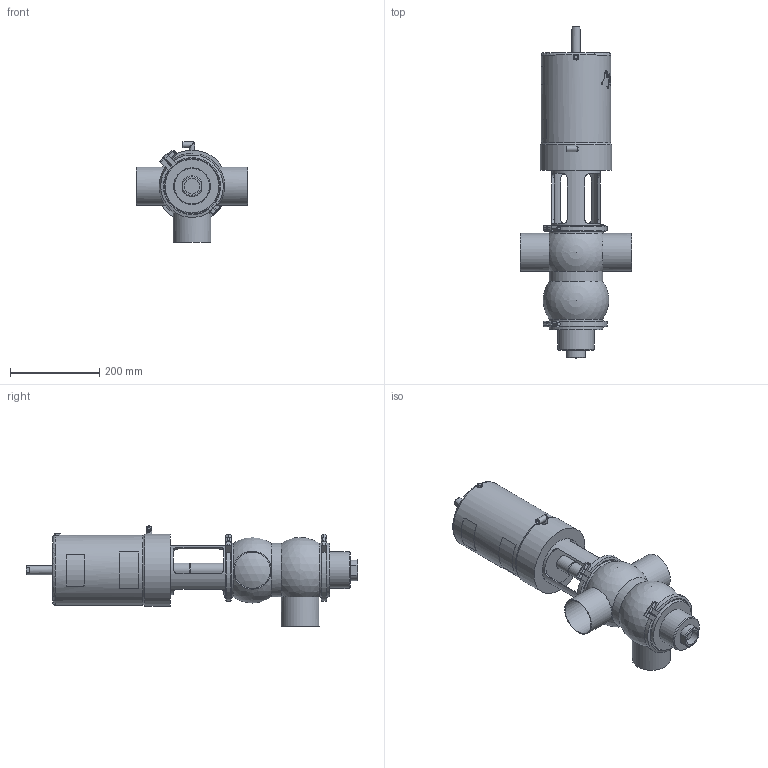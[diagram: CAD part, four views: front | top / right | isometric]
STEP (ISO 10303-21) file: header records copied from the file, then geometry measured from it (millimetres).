
FILE_DESCRIPTION (( 'STEP AP214' ), '1' );
FILE_NAME ('INNOVA S AB-90 W DIN 080_10.251.16.0001.STEP', '2024-08-20T12:10:05', ( '' ), ( '' ), 'SwSTEP 2.0', 'SolidWorks 2023', '' );
FILE_SCHEMA (( 'AUTOMOTIVE_DESIGN' ));
Length unit declared in the file: millimetre
Products named in the file (6): INNOVA S AB-90 W DIN 080_10.251.16.0001; 10.251.15.0003_DIN 080; 10.250.15.0002_Type S T2; 10.240.15.0001_DN 080; 10.251.15.0002_DN 080; 10.251.15.0001_DN 080
Assembly tree (6 placements, depth 2):
  INNOVA S AB-90 W DIN 080_10.251.16.0001
    10.251.15.0001_DN 080
    10.250.15.0002_Type S T2
    10.251.15.0003_DIN 080
    10.240.15.0001_DN 080  x2
    10.251.15.0002_DN 080
Bounding box: 250 x 743 x 224 mm (x, y, z)
Volume: 9104282.7 mm3; surface area: 584065.6 mm2
Topology: 6 solids, 6 shells, 424 faces, 1113 edges, 724 vertices
Faces by surface type: plane 201, cylinder 109, bspline 80, cone 27, sphere 6, torus 1
Full cylindrical faces by diameter (mm): 4.2 x2, 5 x1, 6 x1, 6.15 x1, 8 x4, 8.5 x1, 10.5 x2, 12.5 x6, 20 x1, 30.5 x1, 32 x1, 35 x1, 81 x3, 82 x1, 85 x3, 109 x1, 109.1 x1, 120 x4, 132 x4, 156 x1, 161 x1
Entity records: 22306 total; most frequent: CARTESIAN_POINT 12138, ORIENTED_EDGE 1736, DIRECTION 1355, EDGE_CURVE 868, VERTEX_POINT 594, AXIS2_PLACEMENT_3D 522, EDGE_LOOP 454, FACE_OUTER_BOUND 406
